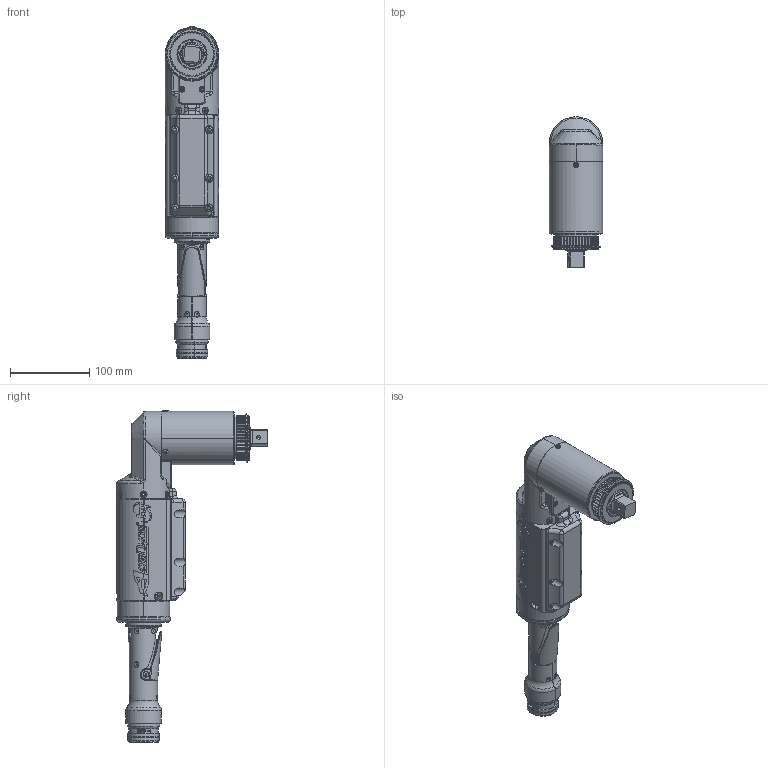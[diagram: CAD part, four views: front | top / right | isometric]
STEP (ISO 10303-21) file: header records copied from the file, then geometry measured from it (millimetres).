
FILE_DESCRIPTION (( 'STEP AP203' ), '1' );
FILE_NAME ('AEN4A66250B, AEN4A66425B, AEN4A66625B, AEN4A66925B.STEP', '2024-02-13T17:00:32', ( '' ), ( '' ), 'SwSTEP 2.0', 'SolidWorks 2023', '' );
FILE_SCHEMA (( 'CONFIG_CONTROL_DESIGN' ));
Length unit declared in the file: inch
Products named in the file (1): AEN4A66250B, AEN4A66425B, AEN4A66625B, AEN4A66925B
Bounding box: 67.31 x 189.47 x 418.48 mm (x, y, z)
Surface area: 178677.5 mm2 (no closed solid volume)
Topology: 0 solids, 112 shells, 1431 faces, 5603 edges, 4120 vertices
Faces by surface type: cylinder 465, plane 393, bspline 217, cone 181, torus 157, sphere 18
Entity records: 112459 total; most frequent: CARTESIAN_POINT 70376, ORIENTED_EDGE 8509, DIRECTION 7565, EDGE_CURVE 5591, VERTEX_POINT 4120, AXIS2_PLACEMENT_3D 2793, LINE 1979, VECTOR 1979
